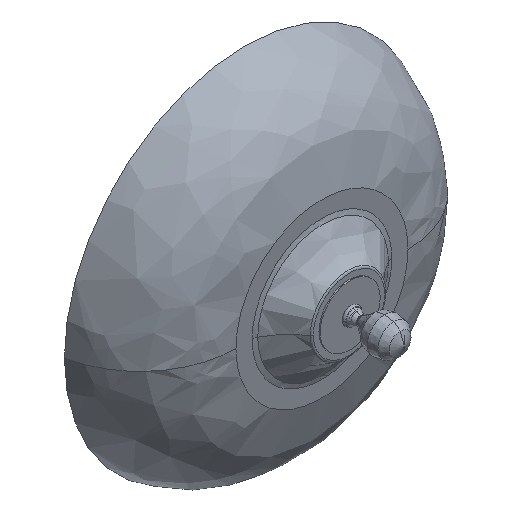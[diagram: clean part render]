
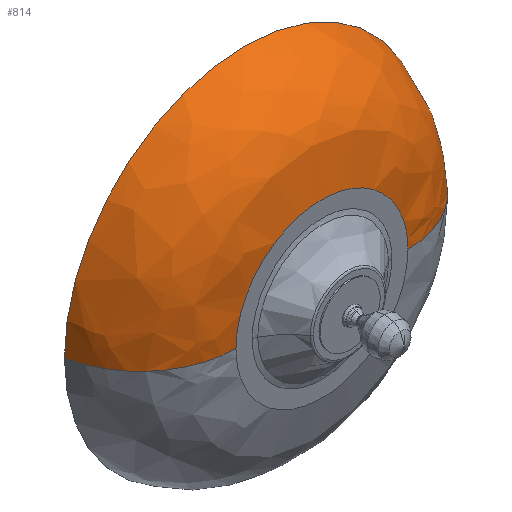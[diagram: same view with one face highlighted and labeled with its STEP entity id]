
A CAD part, isometric view. The second image highlights one B-rep face of the part: STEP entity #814.
In plain terms, the highlighted free-form (B-spline) face has degree [3, 3] with [4, 4] control points.
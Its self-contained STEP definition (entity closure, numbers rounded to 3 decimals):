
#53 = VERTEX_POINT ( 'NONE', #2411 ) ;
#96 = CARTESIAN_POINT ( 'NONE',  ( -111.535, -64.501, 223.069 ) ) ;
#212 = ORIENTED_EDGE ( 'NONE', *, *, #908, .T. ) ;
#222 = ORIENTED_EDGE ( 'NONE', *, *, #2789, .F. ) ;
#270 = DIRECTION ( 'NONE',  ( 0., 0., 1. ) ) ;
#387 = CARTESIAN_POINT ( 'NONE',  ( 142.334, -39.148, 0. ) ) ;
#403 = FACE_OUTER_BOUND ( 'NONE', #2379, .T. ) ;
#465 = CARTESIAN_POINT ( 'NONE',  ( 111.535, -64.501, 0. ) ) ;
#477 = CARTESIAN_POINT ( 'NONE',  ( 71.643, -64.501, 0. ) ) ;
#489 = CARTESIAN_POINT ( 'NONE',  ( 142.334, -39.148, 0. ) ) ;
#505 = CARTESIAN_POINT ( 'NONE',  ( 71.643, -64.501, 0. ) ) ;
#610 = EDGE_CURVE ( 'NONE', #53, #1368, #1458, .T. ) ;
#615 = CARTESIAN_POINT ( 'NONE',  ( 111.535, -64.501, 0. ) ) ;
#625 = CIRCLE ( 'NONE', #1290, 150. ) ;
#626 = CARTESIAN_POINT ( 'NONE',  ( -71.643, -64.501, 0. ) ) ;
#723 = CARTESIAN_POINT ( 'NONE',  ( 0., 0., 0. ) ) ;
#814 = ADVANCED_FACE ( 'NONE', ( #403 ), #2271, .T. ) ;
#833 = CARTESIAN_POINT ( 'NONE',  ( -142.334, -39.148, 0. ) ) ;
#851 = ORIENTED_EDGE ( 'NONE', *, *, #1992, .T. ) ;
#875 = CARTESIAN_POINT ( 'NONE',  ( -150., 0., 0. ) ) ;
#908 = EDGE_CURVE ( 'NONE', #1271, #1110, #2242, .T. ) ;
#934 = DIRECTION ( 'NONE',  ( 0., 1., 0. ) ) ;
#1110 = VERTEX_POINT ( 'NONE', #1859 ) ;
#1199 = CARTESIAN_POINT ( 'NONE',  ( -111.535, -64.501, 0. ) ) ;
#1231 = CARTESIAN_POINT ( 'NONE',  ( -71.643, -64.501, 143.286 ) ) ;
#1236 = CARTESIAN_POINT ( 'NONE',  ( 71.643, -64.501, 143.286 ) ) ;
#1271 = VERTEX_POINT ( 'NONE', #3013 ) ;
#1290 = AXIS2_PLACEMENT_3D ( 'NONE', #723, #934, #270 ) ;
#1368 = VERTEX_POINT ( 'NONE', #3038 ) ;
#1458 =( BOUNDED_CURVE ( )  B_SPLINE_CURVE ( 3, ( #1652, #489, #465, #477 ),
 .UNSPECIFIED., .F., .T. ) 
 B_SPLINE_CURVE_WITH_KNOTS ( ( 4, 4 ),
 ( 0., 1. ),
 .UNSPECIFIED. ) 
 CURVE ( )  GEOMETRIC_REPRESENTATION_ITEM ( )  RATIONAL_B_SPLINE_CURVE ( ( 1., 0.848, 0.848, 1. ) ) 
 REPRESENTATION_ITEM ( '' )  );
#1491 = CARTESIAN_POINT ( 'NONE',  ( 150., 0., 300. ) ) ;
#1500 = CARTESIAN_POINT ( 'NONE',  ( 150., 0., 0. ) ) ;
#1513 = CARTESIAN_POINT ( 'NONE',  ( 111.535, -64.501, 223.069 ) ) ;
#1652 = CARTESIAN_POINT ( 'NONE',  ( 150., 0., 0. ) ) ;
#1859 = CARTESIAN_POINT ( 'NONE',  ( -71.643, -64.501, 0. ) ) ;
#1876 = CARTESIAN_POINT ( 'NONE',  ( 142.334, -39.148, 284.667 ) ) ;
#1896 = CARTESIAN_POINT ( 'NONE',  ( -150., 0., 0. ) ) ;
#1992 = EDGE_CURVE ( 'NONE', #1110, #1368, #2866, .T. ) ;
#2178 = CARTESIAN_POINT ( 'NONE',  ( -142.334, -39.148, 0. ) ) ;
#2195 = CARTESIAN_POINT ( 'NONE',  ( 71.643, -64.501, 0. ) ) ;
#2199 = CARTESIAN_POINT ( 'NONE',  ( 71.643, -64.501, 143.286 ) ) ;
#2241 = CARTESIAN_POINT ( 'NONE',  ( -71.643, -64.501, 0. ) ) ;
#2242 =( BOUNDED_CURVE ( )  B_SPLINE_CURVE ( 3, ( #875, #2178, #1199, #2477 ),
 .UNSPECIFIED., .F., .T. ) 
 B_SPLINE_CURVE_WITH_KNOTS ( ( 4, 4 ),
 ( 0., 1. ),
 .UNSPECIFIED. ) 
 CURVE ( )  GEOMETRIC_REPRESENTATION_ITEM ( )  RATIONAL_B_SPLINE_CURVE ( ( 1., 0.848, 0.848, 1. ) ) 
 REPRESENTATION_ITEM ( '' )  );
#2271 =( BOUNDED_SURFACE ( )  B_SPLINE_SURFACE ( 3, 3, ( 
 ( #1896, #2461, #1491, #1500 ),
 ( #833, #2632, #1876, #387 ),
 ( #2414, #96, #1513, #615 ),
 ( #626, #1231, #1236, #505 ) ),
 .UNSPECIFIED., .F., .F., .F. ) 
 B_SPLINE_SURFACE_WITH_KNOTS ( ( 4, 4 ),
 ( 4, 4 ),
 ( 0., 1. ),
 ( 0., 1. ),
 .UNSPECIFIED. ) 
 GEOMETRIC_REPRESENTATION_ITEM ( )  RATIONAL_B_SPLINE_SURFACE ( (
 ( 1., 0.333, 0.333, 1.),
 ( 0.848, 0.283, 0.283, 0.848),
 ( 0.848, 0.283, 0.283, 0.848),
 ( 1., 0.333, 0.333, 1.) ) ) 
 REPRESENTATION_ITEM ( '' )  SURFACE ( )  );
#2287 = CARTESIAN_POINT ( 'NONE',  ( -71.643, -64.501, 143.286 ) ) ;
#2379 = EDGE_LOOP ( 'NONE', ( #2491, #222, #212, #851 ) ) ;
#2411 = CARTESIAN_POINT ( 'NONE',  ( 150., 0., 0. ) ) ;
#2414 = CARTESIAN_POINT ( 'NONE',  ( -111.535, -64.501, 0. ) ) ;
#2461 = CARTESIAN_POINT ( 'NONE',  ( -150., 0., 300. ) ) ;
#2477 = CARTESIAN_POINT ( 'NONE',  ( -71.643, -64.501, 0. ) ) ;
#2491 = ORIENTED_EDGE ( 'NONE', *, *, #610, .F. ) ;
#2632 = CARTESIAN_POINT ( 'NONE',  ( -142.334, -39.148, 284.667 ) ) ;
#2789 = EDGE_CURVE ( 'NONE', #1271, #53, #625, .T. ) ;
#2866 =( BOUNDED_CURVE ( )  B_SPLINE_CURVE ( 3, ( #2241, #2287, #2199, #2195 ),
 .UNSPECIFIED., .F., .F. ) 
 B_SPLINE_CURVE_WITH_KNOTS ( ( 4, 4 ),
 ( 0., 1. ),
 .UNSPECIFIED. ) 
 CURVE ( )  GEOMETRIC_REPRESENTATION_ITEM ( )  RATIONAL_B_SPLINE_CURVE ( ( 1., 0.333, 0.333, 1. ) ) 
 REPRESENTATION_ITEM ( '' )  );
#3013 = CARTESIAN_POINT ( 'NONE',  ( -150., 0., 0. ) ) ;
#3038 = CARTESIAN_POINT ( 'NONE',  ( 71.643, -64.501, 0. ) ) ;
